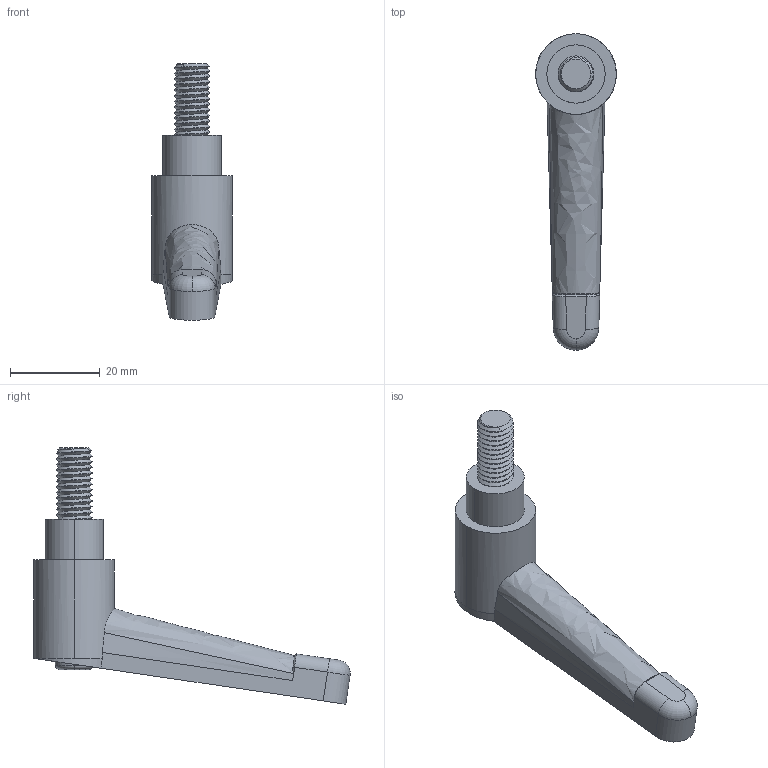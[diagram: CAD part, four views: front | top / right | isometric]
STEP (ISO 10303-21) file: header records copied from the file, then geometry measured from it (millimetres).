
FILE_DESCRIPTION (( 'STEP AP214' ), '1' );
FILE_NAME ('7139.STEP', '2015-04-16T11:06:04', ( 'user' ), ( '' ), 'SwSTEP 2.0', 'SolidWorks 2014', '' );
FILE_SCHEMA (( 'AUTOMOTIVE_DESIGN' ));
Length unit declared in the file: millimetre
Products named in the file (1): 7139
Bounding box: 18 x 70.61 x 57.24 mm (x, y, z)
Volume: 13730.4 mm3; surface area: 4930.8 mm2
Topology: 1 solids, 1 shells, 78 faces, 205 edges, 134 vertices
Faces by surface type: cylinder 39, plane 20, bspline 13, torus 4, cone 2
Entity records: 5130 total; most frequent: CARTESIAN_POINT 2596, ORIENTED_EDGE 410, DIRECTION 267, EDGE_CURVE 205, VERTEX_POINT 134, AXIS2_PLACEMENT_3D 96, EDGE_LOOP 83, UNCERTAINTY_MEASURE_WITH_UNIT 81
